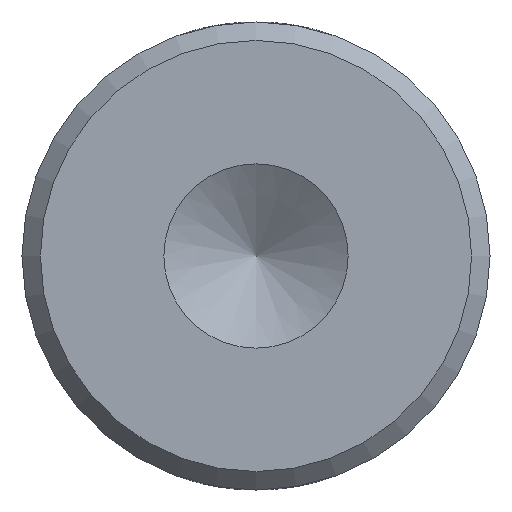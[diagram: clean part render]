
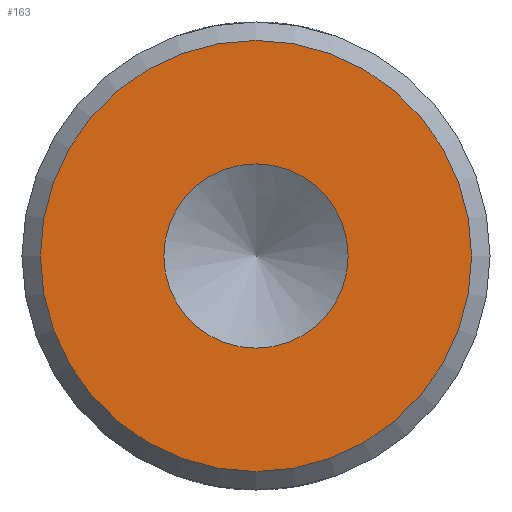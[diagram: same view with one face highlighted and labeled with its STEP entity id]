
A CAD part, front view. The second image highlights one B-rep face of the part: STEP entity #163.
In plain terms, the highlighted planar face has unit normal (0, -1, 0).
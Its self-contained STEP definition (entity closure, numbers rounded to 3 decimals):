
#33 = CARTESIAN_POINT ( 'NONE',  ( 0., 0., -2.5 ) ) ;
#119 = DIRECTION ( 'NONE',  ( 0., 0., -1. ) ) ;
#120 = DIRECTION ( 'NONE',  ( 0., -1., 0. ) ) ;
#121 = CARTESIAN_POINT ( 'NONE',  ( 0., 0., 0. ) ) ;
#123 = CARTESIAN_POINT ( 'NONE',  ( 0., 0., 5.85 ) ) ;
#163 = ADVANCED_FACE ( 'NONE', ( #267, #221 ), #431, .F. ) ;
#199 = VERTEX_POINT ( 'NONE', #123 ) ;
#217 = VERTEX_POINT ( 'NONE', #33 ) ;
#218 = CIRCLE ( 'NONE', #341, 2.5 ) ;
#221 = FACE_BOUND ( 'NONE', #270, .T. ) ;
#238 = CIRCLE ( 'NONE', #336, 5.85 ) ;
#267 = FACE_OUTER_BOUND ( 'NONE', #271, .T. ) ;
#270 = EDGE_LOOP ( 'NONE', ( #299 ) ) ;
#271 = EDGE_LOOP ( 'NONE', ( #301 ) ) ;
#299 = ORIENTED_EDGE ( 'NONE', *, *, #322, .F. ) ;
#301 = ORIENTED_EDGE ( 'NONE', *, *, #314, .T. ) ;
#314 = EDGE_CURVE ( 'NONE', #199, #199, #238, .T. ) ;
#322 = EDGE_CURVE ( 'NONE', #217, #217, #218, .T. ) ;
#325 = AXIS2_PLACEMENT_3D ( 'NONE', #432, #425, #445 ) ;
#336 = AXIS2_PLACEMENT_3D ( 'NONE', #436, #435, #434 ) ;
#341 = AXIS2_PLACEMENT_3D ( 'NONE', #121, #120, #119 ) ;
#425 = DIRECTION ( 'NONE',  ( 0., 1., 0. ) ) ;
#431 = PLANE ( 'NONE',  #325 ) ;
#432 = CARTESIAN_POINT ( 'NONE',  ( 0., 0., 0. ) ) ;
#434 = DIRECTION ( 'NONE',  ( 0., 0., 1. ) ) ;
#435 = DIRECTION ( 'NONE',  ( 0., -1., 0. ) ) ;
#436 = CARTESIAN_POINT ( 'NONE',  ( 0., 0., 0. ) ) ;
#445 = DIRECTION ( 'NONE',  ( 0., 0., 1. ) ) ;
